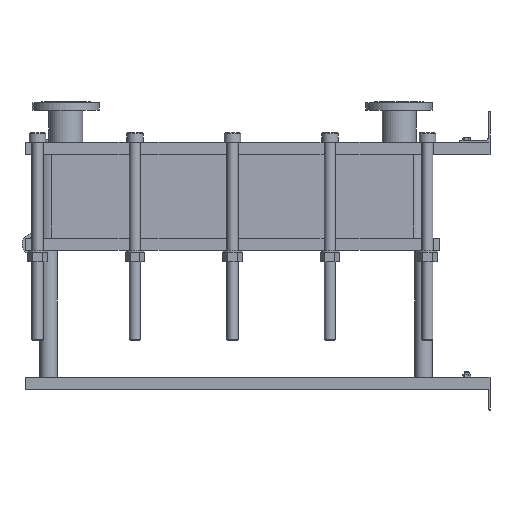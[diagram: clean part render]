
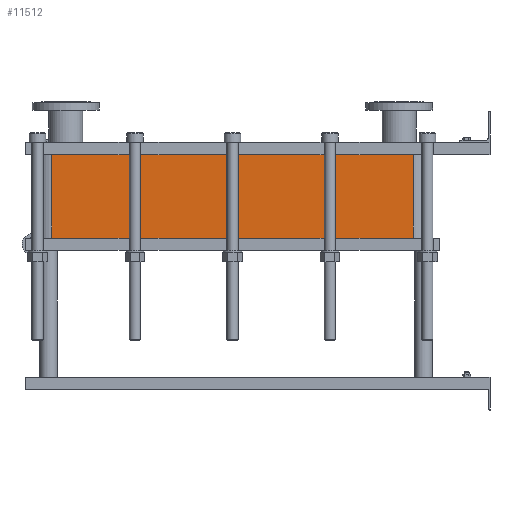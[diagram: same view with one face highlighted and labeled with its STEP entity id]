
A CAD part, left-side view. The second image highlights one B-rep face of the part: STEP entity #11512.
In plain terms, the highlighted planar face has unit normal (-1, 0, 0).
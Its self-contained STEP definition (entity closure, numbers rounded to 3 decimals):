
#1129=LINE('',#23232,#2102);
#1130=LINE('',#23236,#2103);
#1131=LINE('',#23238,#2104);
#1132=LINE('',#23239,#2105);
#2102=VECTOR('',#15887,10.);
#2103=VECTOR('',#15892,10.);
#2104=VECTOR('',#15893,10.);
#2105=VECTOR('',#15894,10.);
#3267=FACE_OUTER_BOUND('',#4093,.T.);
#4093=EDGE_LOOP('',(#10103,#10104,#10105,#10106));
#5642=VERTEX_POINT('',#23229);
#5643=VERTEX_POINT('',#23231);
#5644=VERTEX_POINT('',#23235);
#5645=VERTEX_POINT('',#23237);
#7159=EDGE_CURVE('',#5643,#5642,#1129,.T.);
#7161=EDGE_CURVE('',#5642,#5644,#1130,.T.);
#7162=EDGE_CURVE('',#5645,#5644,#1131,.T.);
#7163=EDGE_CURVE('',#5645,#5643,#1132,.T.);
#10103=ORIENTED_EDGE('',*,*,#7161,.T.);
#10104=ORIENTED_EDGE('',*,*,#7162,.F.);
#10105=ORIENTED_EDGE('',*,*,#7163,.T.);
#10106=ORIENTED_EDGE('',*,*,#7159,.T.);
#10857=PLANE('',#12751);
#11512=ADVANCED_FACE('',(#3267),#10857,.T.);
#12751=AXIS2_PLACEMENT_3D('',#23234,#15890,#15891);
#15887=DIRECTION('',(0.,0.,-1.));
#15890=DIRECTION('center_axis',(-1.,0.,0.));
#15891=DIRECTION('ref_axis',(0.,1.,0.));
#15892=DIRECTION('',(0.,-1.,0.));
#15893=DIRECTION('',(0.,0.,-1.));
#15894=DIRECTION('',(0.,1.,0.));
#23229=CARTESIAN_POINT('',(-200.,1414.,-269.1));
#23231=CARTESIAN_POINT('',(-200.,1414.,0.));
#23232=CARTESIAN_POINT('',(-200.,1414.,0.));
#23234=CARTESIAN_POINT('Origin',(-200.,248.,0.));
#23235=CARTESIAN_POINT('',(-200.,248.,-269.1));
#23236=CARTESIAN_POINT('',(-200.,539.5,-269.1));
#23237=CARTESIAN_POINT('',(-200.,248.,0.));
#23238=CARTESIAN_POINT('',(-200.,248.,0.));
#23239=CARTESIAN_POINT('',(-200.,248.,0.));
